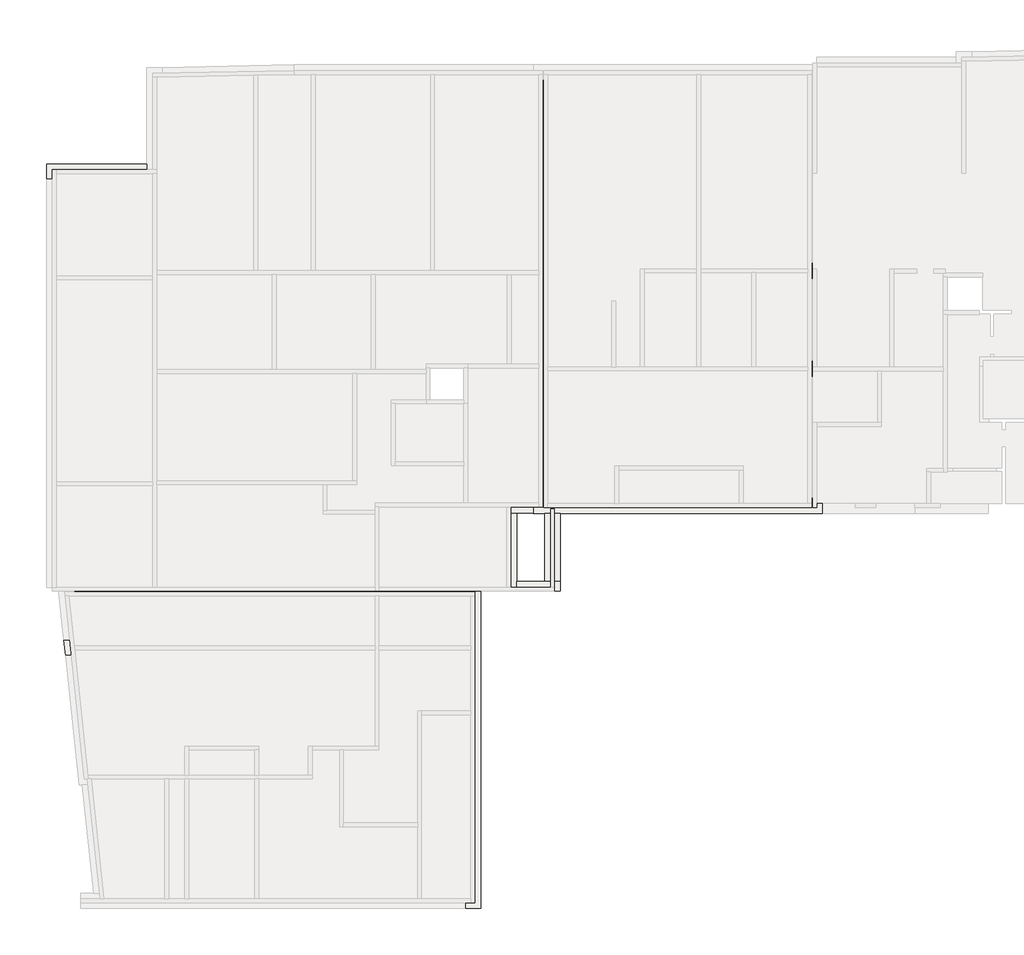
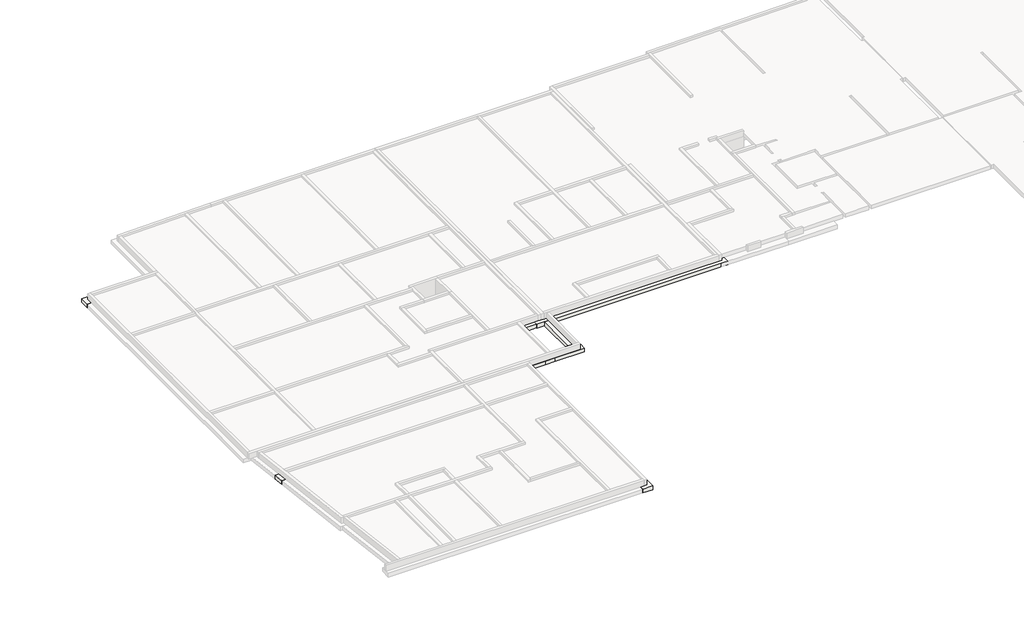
# One storey, part 4 of 5: 45 footings.
"""IFC4 building model written with IfcOpenShell, lengths in millimetres."""

from ifc_helpers import new_model, si_unit, frame, origin, place, context, project, spatial, polyline, outline, extrude, faceted_brep, element, save

model = new_model("IFC4")

# Units and contexts
model_context = context("Model", 3, world=origin())
ifc_project = project(units=[si_unit("LENGTHUNIT", "METRE", prefix="MILLI")], contexts=[model_context])

# Site, building, storey
site = spatial("IfcSite", under=ifc_project)
building = spatial("IfcBuilding", under=site)
storey = spatial("IfcBuildingStorey", under=building, Name="Base Mur soubassement", Elevation=-480.0)

# Footings
placement = place(None, origin())
element("IfcFooting", 1, ObjectType="Soubassement 30 cm/30 cm x 30 cm", at=placement, inside=storey, context=model_context, shape_type="Brep", body=[
    faceted_brep([(31528.7587922, 36682.4079561, -480.0), (31528.7587922, 27172.4500352, -480.0), (31528.7587922, 26372.4500352, -480.0), (31528.7587922, 22073.8066571, -480.0), (32328.7587922, 22073.8066571, -480.0), (32328.7587922, 26372.4500352, -480.0), (32328.7587922, 27172.4500352, -480.0), (32328.7587922, 36682.4079561, -480.0), (32328.7587922, 36682.4079561, -780.0), (32328.7587922, 22073.8066571, -780.0), (32328.7587922, 26372.4500352, -780.0), (32328.7587922, 27172.4500352, -780.0), (31528.7587922, 36682.4079561, -780.0), (31528.7587922, 22073.8066571, -780.0), (31528.7587922, 26372.4500352, -780.0), (31528.7587922, 27172.4500352, -780.0)], [[[0, 1, 2, 3, 4, 5, 6, 7]], [[8, 7, 6, 5, 4, 9, 10, 11]], [[12, 8, 11, 10, 9, 13, 14, 15]], [[0, 12, 15, 14, 13, 3, 2, 1]], [[0, 7, 8, 12]], [[4, 3, 13, 9]]]),
])
element("IfcFooting", 2, ObjectType="Soubassement 30 cm/30 cm x 30 cm", at=placement, inside=storey, context=model_context, shape_type="Brep", body=[
    faceted_brep([(24379.3002373, 27172.4500352, -480.0), (24379.3002373, 27172.4500352, -780.0), (24379.3002373, 26372.4500352, -780.0), (24379.3002373, 26372.4500352, -480.0), (27126.9896309, 26372.4500352, -480.0), (27926.9896309, 26372.4500352, -480.0), (28598.3646686, 26372.4500352, -480.0), (29398.3646686, 26372.4500352, -480.0), (31528.7587922, 26372.4500352, -480.0), (31528.7587922, 27172.4500352, -480.0), (31528.7587922, 27172.4500352, -780.0), (31528.7587922, 26372.4500352, -780.0), (29398.3646686, 26372.4500352, -780.0), (28598.3646686, 26372.4500352, -780.0), (27926.9896309, 26372.4500352, -780.0), (27126.9896309, 26372.4500352, -780.0)], [[[0, 1, 2, 3]], [[0, 3, 4, 5, 6, 7, 8, 9]], [[1, 0, 9, 10]], [[2, 1, 10, 11, 12, 13, 14, 15]], [[3, 2, 15, 14, 13, 12, 11, 8, 7, 6, 5, 4]], [[9, 8, 11, 10]]]),
    faceted_brep([(38358.398272, 26372.4500352, -480.0), (38358.398272, 27157.8817009, -480.0), (38358.398272, 27172.4500352, -480.0), (37308.398272, 27172.4500352, -480.0), (32328.7587922, 27172.4500352, -480.0), (32328.7587922, 26372.4500352, -480.0), (34393.5365752, 26372.4500352, -480.0), (35193.5365752, 26372.4500352, -480.0), (37308.398272, 26372.4500352, -480.0), (38166.5033212, 26372.4500352, -480.0), (38358.398272, 27172.4500352, -780.0), (37308.398272, 27172.4500352, -780.0), (32328.7587922, 27172.4500352, -780.0), (38358.398272, 27157.8817009, -780.0), (38358.398272, 26372.4500352, -780.0), (38166.5033212, 26372.4500352, -780.0), (37308.398272, 26372.4500352, -780.0), (35193.5365752, 26372.4500352, -780.0), (34393.5365752, 26372.4500352, -780.0), (32328.7587922, 26372.4500352, -780.0)], [[[0, 1, 2, 3, 4, 5, 6, 7, 8, 9]], [[2, 10, 11, 12, 4, 3]], [[10, 13, 14, 15, 16, 17, 18, 19, 12, 11]], [[14, 0, 9, 8, 7, 6, 5, 19, 18, 17, 16, 15]], [[5, 4, 12, 19]], [[2, 1, 0, 14, 13, 10]]]),
])
element("IfcFooting", 3, ObjectType="Soubassement 30 cm/30 cm x 30 cm", at=placement, inside=storey, context=model_context, shape_type="Brep", body=[
    faceted_brep([(38358.398272, 22073.8066571, -480.0), (37308.398272, 22073.8066571, -480.0), (35193.5365752, 22073.8066571, -480.0), (34393.5365752, 22073.8066571, -480.0), (32328.7587922, 22073.8066571, -480.0), (31528.7587922, 22073.8066571, -480.0), (29398.3646686, 22073.8066571, -480.0), (28598.3646686, 22073.8066571, -480.0), (27926.9896309, 22073.8066571, -480.0), (27126.9896309, 22073.8066571, -480.0), (24379.3002373, 22073.8066571, -480.0), (23619.3814813, 22073.8066571, -480.0), (23329.3002373, 22073.8066571, -480.0), (23329.3002373, 21416.9971343, -480.0), (23329.3002373, 21273.8066571, -480.0), (24379.3002373, 21273.8066571, -480.0), (37308.398272, 21273.8066571, -480.0), (37868.7313075, 21273.8066571, -480.0), (38358.398272, 21273.8066571, -480.0), (38358.398272, 22072.4500352, -480.0), (38358.398272, 21273.8066571, -780.0), (23329.3002373, 21273.8066571, -780.0), (24379.3002373, 21273.8066571, -780.0), (37308.398272, 21273.8066571, -780.0), (37868.7313075, 21273.8066571, -780.0), (38358.398272, 22073.8066571, -780.0), (38358.398272, 22072.4500352, -780.0), (23329.3002373, 21416.9971343, -780.0), (23329.3002373, 22073.8066571, -780.0), (23619.3814813, 22073.8066571, -780.0), (24379.3002373, 22073.8066571, -780.0), (27126.9896309, 22073.8066571, -780.0), (27926.9896309, 22073.8066571, -780.0), (28598.3646686, 22073.8066571, -780.0), (29398.3646686, 22073.8066571, -780.0), (31528.7587922, 22073.8066571, -780.0), (32328.7587922, 22073.8066571, -780.0), (34393.5365752, 22073.8066571, -780.0), (35193.5365752, 22073.8066571, -780.0), (37308.398272, 22073.8066571, -780.0)], [[[0, 1, 2, 3, 4, 5, 6, 7, 8, 9, 10, 11, 12, 13, 14, 15, 16, 17, 18, 19]], [[20, 18, 17, 16, 15, 14, 21, 22, 23, 24]], [[25, 26, 20, 24, 23, 22, 21, 27, 28, 29, 30, 31, 32, 33, 34, 35, 36, 37, 38, 39]], [[0, 25, 39, 38, 37, 36, 35, 34, 33, 32, 31, 30, 29, 28, 12, 11, 10, 9, 8, 7, 6, 5, 4, 3, 2, 1]], [[0, 19, 18, 20, 26, 25]], [[14, 13, 12, 28, 27, 21]]]),
])
element("IfcFooting", 4, ObjectType="Soubassement 30 cm/30 cm x 30 cm", at=placement, inside=storey, context=model_context, shape_type="Brep", body=[
    faceted_brep([(27266.9796966, 16111.4012934, -480.0), (28066.9796966, 16111.4012934, -480.0), (33752.3966699, 16111.4012934, -480.0), (34552.3966699, 16111.4012934, -480.0), (34552.3966699, 16911.4012934, -480.0), (27266.9796966, 16911.4012934, -480.0), (27266.9796966, 16911.4012934, -780.0), (34552.3966699, 16911.4012934, -780.0), (27266.9796966, 16111.4012934, -780.0), (34552.3966699, 16111.4012934, -780.0), (33752.3966699, 16111.4012934, -780.0), (28066.9796966, 16111.4012934, -780.0)], [[[0, 1, 2, 3, 4, 5]], [[6, 5, 4, 7]], [[8, 6, 7, 9, 10, 11]], [[0, 8, 11, 10, 9, 3, 2, 1]], [[0, 5, 6, 8]], [[4, 3, 9, 7]]]),
])
element("IfcFooting", 5, ObjectType="Soubassement 30 cm/30 cm x 30 cm", at=placement, inside=storey, context=model_context, shape_type="Brep", body=[
    faceted_brep([(23329.3002373, 14164.3593187, -480.0), (23935.2475272, 14164.3593187, -480.0), (24735.2475272, 14164.3593187, -480.0), (37848.6597873, 14164.3593187, -480.0), (38358.398272, 14164.3593187, -480.0), (38358.398272, 14962.6998135, -480.0), (38358.398272, 14964.3593187, -480.0), (37308.398272, 14964.3593187, -480.0), (34552.3966699, 14964.3593187, -480.0), (33752.3966699, 14964.3593187, -480.0), (28066.9796966, 14964.3593187, -480.0), (27266.9796966, 14964.3593187, -480.0), (24379.3002373, 14964.3593187, -480.0), (23619.3814813, 14964.3593187, -480.0), (23329.3002373, 14964.3593187, -480.0), (23329.3002373, 14187.8380735, -480.0), (23329.3002373, 14964.3593187, -780.0), (38358.398272, 14964.3593187, -780.0), (37308.398272, 14964.3593187, -780.0), (34552.3966699, 14964.3593187, -780.0), (33752.3966699, 14964.3593187, -780.0), (28066.9796966, 14964.3593187, -780.0), (27266.9796966, 14964.3593187, -780.0), (24379.3002373, 14964.3593187, -780.0), (23619.3814813, 14964.3593187, -780.0), (23329.3002373, 14164.3593187, -780.0), (23329.3002373, 14187.8380735, -780.0), (38358.398272, 14962.6998135, -780.0), (38358.398272, 14164.3593187, -780.0), (37848.6597873, 14164.3593187, -780.0), (24735.2475272, 14164.3593187, -780.0), (23935.2475272, 14164.3593187, -780.0)], [[[0, 1, 2, 3, 4, 5, 6, 7, 8, 9, 10, 11, 12, 13, 14, 15]], [[16, 14, 13, 12, 11, 10, 9, 8, 7, 6, 17, 18, 19, 20, 21, 22, 23, 24]], [[25, 26, 16, 24, 23, 22, 21, 20, 19, 18, 17, 27, 28, 29, 30, 31]], [[0, 25, 31, 30, 29, 28, 4, 3, 2, 1]], [[0, 15, 14, 16, 26, 25]], [[6, 5, 4, 28, 27, 17]]]),
])
element("IfcFooting", 6, ObjectType="Soubassement 30 cm/30 cm x 30 cm", at=placement, inside=storey, context=model_context, shape_type="Brep", body=[
    faceted_brep([(23619.3814813, 14987.8380735, -780.0), (23619.3814813, 14987.8380735, -480.0), (23619.3814813, 14964.3593187, -480.0), (23619.3814813, 14964.3593187, -780.0), (23329.3002373, 14987.8380735, -480.0), (20229.9333488, 14987.8380735, -480.0), (19429.9333488, 14987.8380735, -480.0), (14809.3203129, 14987.8380735, -480.0), (14809.3203129, 14617.7151114, -480.0), (14809.3203129, 14187.8380735, -480.0), (15609.3203129, 14187.8380735, -480.0), (21668.3655313, 14187.8380735, -480.0), (22468.3655313, 14187.8380735, -480.0), (23329.3002373, 14187.8380735, -480.0), (23329.3002373, 14964.3593187, -480.0), (14809.3203129, 14187.8380735, -780.0), (15609.3203129, 14187.8380735, -780.0), (21668.3655313, 14187.8380735, -780.0), (22468.3655313, 14187.8380735, -780.0), (23329.3002373, 14187.8380735, -780.0), (14809.3203129, 14987.8380735, -780.0), (19429.9333488, 14987.8380735, -780.0), (20229.9333488, 14987.8380735, -780.0), (23329.3002373, 14987.8380735, -780.0), (23329.3002373, 14964.3593187, -780.0), (14809.3203129, 14617.7151114, -780.0)], [[[0, 1, 2, 3]], [[1, 4, 5, 6, 7, 8, 9, 10, 11, 12, 13, 14, 2]], [[9, 15, 16, 17, 18, 19, 13, 12, 11, 10]], [[20, 21, 22, 23, 0, 3, 24, 19, 18, 17, 16, 15, 25]], [[1, 0, 23, 22, 21, 20, 7, 6, 5, 4]], [[9, 8, 7, 20, 25, 15]], [[14, 24, 3, 2]], [[24, 14, 13, 19]]]),
])
element("IfcFooting", 7, ObjectType="Soubassement 30 cm/30 cm x 30 cm", at=placement, inside=storey, context=model_context, shape_type="Brep", body=[
    faceted_brep([(21668.3655313, 10115.4117008, -480.0), (22468.3655313, 10115.4117008, -480.0), (22468.3655313, 10615.4117008, -480.0), (22468.3655313, 14187.8380735, -480.0), (21668.3655313, 14187.8380735, -480.0), (21668.3655313, 10615.4117008, -480.0), (22468.3655313, 10115.4117008, -780.0), (22468.3655313, 10615.4117008, -780.0), (22468.3655313, 14187.8380735, -780.0), (21668.3655313, 10115.4117008, -780.0), (21668.3655313, 10615.4117008, -780.0), (21668.3655313, 14187.8380735, -780.0)], [[[0, 1, 2, 3, 4, 5]], [[1, 6, 7, 8, 3, 2]], [[6, 9, 10, 11, 8, 7]], [[9, 0, 5, 4, 11, 10]], [[4, 3, 8, 11]], [[1, 0, 9, 6]]]),
])
element("IfcFooting", 8, ObjectType="Soubassement 30 cm/30 cm x 30 cm", at=placement, inside=storey, context=model_context, shape_type="SweptSolid", body=[
    extrude(outline(polyline([(27266.9796966, 16111.4012934), (28066.9796966, 16111.4012934), (28066.9796966, 14964.3593187), (27266.9796966, 14964.3593187), (27266.9796966, 16111.4012934)])), frame((0.0, 0.0, -780.0), z_axis=(0.0, 0.0, 1.0), x_axis=(1.0, 0.0, 0.0)), (0.0, 0.0, 1.0), 300.0),
])
element("IfcFooting", 9, ObjectType="Soubassement 30 cm/30 cm x 30 cm", at=placement, inside=storey, context=model_context, shape_type="SweptSolid", body=[
    extrude(outline(polyline([(33752.3966699, 16111.4012934), (34552.3966699, 16111.4012934), (34552.3966699, 14964.3593187), (33752.3966699, 14964.3593187), (33752.3966699, 16111.4012934)])), frame((0.0, 0.0, -780.0), z_axis=(0.0, 0.0, 1.0), x_axis=(1.0, 0.0, 0.0)), (0.0, 0.0, 1.0), 300.0),
])
element("IfcFooting", 10, ObjectType="Soubassement 30 cm/30 cm x 30 cm", at=placement, inside=storey, context=model_context, shape_type="SweptSolid", body=[
    extrude(outline(polyline([(27126.9896309, 26372.4500352), (27926.9896309, 26372.4500352), (27926.9896309, 22073.8066571), (27126.9896309, 22073.8066571), (27126.9896309, 26372.4500352)])), frame((0.0, 0.0, -780.0), z_axis=(0.0, 0.0, 1.0), x_axis=(1.0, 0.0, 0.0)), (0.0, 0.0, 1.0), 300.0),
])
element("IfcFooting", 11, ObjectType="Soubassement 30 cm/30 cm x 30 cm", at=placement, inside=storey, context=model_context, shape_type="SweptSolid", body=[
    extrude(outline(polyline([(29398.3646686, 22073.8066571), (28598.3646686, 22073.8066571), (28598.3646686, 26372.4500352), (29398.3646686, 26372.4500352), (29398.3646686, 22073.8066571)])), frame((0.0, 0.0, -780.0), z_axis=(0.0, 0.0, 1.0), x_axis=(1.0, 0.0, 0.0)), (0.0, 0.0, 1.0), 300.0),
])
element("IfcFooting", 12, ObjectType="Soubassement 30 cm/30 cm x 30 cm", at=placement, inside=storey, context=model_context, shape_type="Brep", body=[
    faceted_brep([(14464.9548931, 15349.6332906, -480.0), (14464.9548931, 21125.9455164, -480.0), (13664.9548931, 21125.9455164, -480.0), (13664.9548931, 16149.6332906, -480.0), (13664.9548931, 15349.6332906, -480.0), (13664.9548931, 15349.6332906, -780.0), (13664.9548931, 21125.9455164, -780.0), (13664.9548931, 16149.6332906, -780.0), (14464.9548931, 15349.6332906, -780.0), (14464.9548931, 21125.9455164, -780.0)], [[[0, 1, 2, 3, 4]], [[5, 4, 3, 2, 6, 7]], [[8, 5, 7, 6, 9]], [[0, 8, 9, 1]], [[2, 1, 9, 6]], [[0, 4, 5, 8]]]),
])
element("IfcFooting", 13, ObjectType="Soubassement 30 cm/30 cm x 30 cm", at=placement, inside=storey, context=model_context, shape_type="Brep", body=[
    faceted_brep([(17765.1211572, 21925.9455164, -480.0), (17765.1211572, 21125.9455164, -480.0), (17765.1211572, 21125.9455164, -780.0), (17765.1211572, 21925.9455164, -780.0), (3256.9078335, 21125.9455164, -480.0), (4056.9078335, 21125.9455164, -480.0), (13664.9548931, 21125.9455164, -480.0), (14464.9548931, 21125.9455164, -480.0), (15413.9907355, 21925.9455164, -480.0), (14613.9907355, 21925.9455164, -480.0), (10278.0983694, 21925.9455164, -480.0), (9478.0983694, 21925.9455164, -480.0), (4056.9078335, 21925.9455164, -480.0), (3256.9078335, 21925.9455164, -480.0), (3256.9078335, 21925.9455164, -780.0), (15413.9907355, 21925.9455164, -780.0), (14613.9907355, 21925.9455164, -780.0), (10278.0983694, 21925.9455164, -780.0), (9478.0983694, 21925.9455164, -780.0), (4056.9078335, 21925.9455164, -780.0), (3256.9078335, 21125.9455164, -780.0), (14464.9548931, 21125.9455164, -780.0), (13664.9548931, 21125.9455164, -780.0), (4056.9078335, 21125.9455164, -780.0)], [[[0, 1, 2, 3]], [[4, 5, 6, 7, 1, 0, 8, 9, 10, 11, 12, 13]], [[14, 13, 12, 11, 10, 9, 8, 0, 3, 15, 16, 17, 18, 19]], [[20, 14, 19, 18, 17, 16, 15, 3, 2, 21, 22, 23]], [[4, 20, 23, 22, 21, 2, 1, 7, 6, 5]], [[4, 13, 14, 20]]]),
])
element("IfcFooting", 14, ObjectType="Soubassement 30 cm/30 cm x 30 cm", at=placement, inside=storey, context=model_context, shape_type="Brep", body=[
    faceted_brep([(23619.3814813, 22216.9971343, -780.0), (23619.3814813, 22216.9971343, -480.0), (23619.3814813, 22073.8066571, -480.0), (23619.3814813, 22073.8066571, -780.0), (19929.9333488, 21416.9971343, -780.0), (19929.9333488, 21416.9971343, -480.0), (19929.9333488, 22216.9971343, -480.0), (19929.9333488, 22216.9971343, -780.0), (23329.3002373, 22216.9971343, -480.0), (22495.0786989, 22216.9971343, -480.0), (21695.0786989, 22216.9971343, -480.0), (23329.3002373, 21416.9971343, -480.0), (23329.3002373, 22073.8066571, -480.0), (23329.3002373, 21416.9971343, -780.0), (21695.0786989, 22216.9971343, -780.0), (22495.0786989, 22216.9971343, -780.0), (23329.3002373, 22216.9971343, -780.0), (23329.3002373, 22073.8066571, -780.0)], [[[0, 1, 2, 3]], [[4, 5, 6, 7]], [[1, 8, 9, 10, 6, 5, 11, 12, 2]], [[5, 4, 13, 11]], [[4, 7, 14, 15, 16, 0, 3, 17, 13]], [[1, 0, 16, 15, 14, 7, 6, 10, 9, 8]], [[12, 17, 3, 2]], [[17, 12, 11, 13]]]),
])
element("IfcFooting", 15, ObjectType="Soubassement 30 cm/30 cm x 30 cm", at=placement, inside=storey, context=model_context, shape_type="Brep", body=[
    faceted_brep([(21695.0786989, 27087.8872551, -480.0), (21695.0786989, 26287.8872551, -480.0), (21695.0786989, 22216.9971343, -480.0), (22495.0786989, 22216.9971343, -480.0), (22495.0786989, 26287.8872551, -480.0), (22495.0786989, 27087.8872551, -480.0), (22495.0786989, 27087.8872551, -780.0), (22495.0786989, 22216.9971343, -780.0), (22495.0786989, 26287.8872551, -780.0), (21695.0786989, 27087.8872551, -780.0), (21695.0786989, 22216.9971343, -780.0), (21695.0786989, 26287.8872551, -780.0)], [[[0, 1, 2, 3, 4, 5]], [[6, 5, 4, 3, 7, 8]], [[9, 6, 8, 7, 10, 11]], [[0, 9, 11, 10, 2, 1]], [[3, 2, 10, 7]], [[0, 5, 6, 9]]]),
])
element("IfcFooting", 16, ObjectType="Soubassement 30 cm/30 cm x 30 cm", at=placement, inside=storey, context=model_context, shape_type="Brep", body=[
    faceted_brep([(23619.3814813, 26287.8872551, -480.0), (23619.3814813, 26287.8872551, -780.0), (23619.3814813, 27087.8872551, -780.0), (23619.3814813, 27087.8872551, -480.0), (23329.3002373, 27087.8872551, -480.0), (22495.0786989, 27087.8872551, -480.0), (22495.0786989, 26287.8872551, -480.0), (23329.3002373, 26287.8872551, -480.0), (22495.0786989, 26287.8872551, -780.0), (23329.3002373, 26287.8872551, -780.0), (22495.0786989, 27087.8872551, -780.0), (23329.3002373, 27087.8872551, -780.0)], [[[0, 1, 2, 3]], [[0, 3, 4, 5, 6, 7]], [[1, 0, 7, 6, 8, 9]], [[2, 1, 9, 8, 10, 11]], [[3, 2, 11, 10, 5, 4]], [[6, 5, 10, 8]]]),
    faceted_brep([(3256.9078335, 27087.8872551, -480.0), (3256.9078335, 26808.0923089, -480.0), (3256.9078335, 26287.8872551, -480.0), (4056.9078335, 26287.8872551, -480.0), (9478.0983694, 26287.8872551, -480.0), (10278.0983694, 26287.8872551, -480.0), (14613.9907355, 26287.8872551, -480.0), (15413.9907355, 26287.8872551, -480.0), (21695.0786989, 26287.8872551, -480.0), (21695.0786989, 27087.8872551, -480.0), (18499.2548774, 27087.8872551, -480.0), (17699.2548774, 27087.8872551, -480.0), (12303.2656575, 27087.8872551, -480.0), (11503.2656575, 27087.8872551, -480.0), (9317.5794193, 27087.8872551, -480.0), (8517.5794193, 27087.8872551, -480.0), (4056.9078335, 27087.8872551, -480.0), (3256.9078335, 26287.8872551, -780.0), (4056.9078335, 26287.8872551, -780.0), (9478.0983694, 26287.8872551, -780.0), (10278.0983694, 26287.8872551, -780.0), (14613.9907355, 26287.8872551, -780.0), (15413.9907355, 26287.8872551, -780.0), (21695.0786989, 26287.8872551, -780.0), (3256.9078335, 26808.0923089, -780.0), (3256.9078335, 27087.8872551, -780.0), (4056.9078335, 27087.8872551, -780.0), (8517.5794193, 27087.8872551, -780.0), (9317.5794193, 27087.8872551, -780.0), (11503.2656575, 27087.8872551, -780.0), (12303.2656575, 27087.8872551, -780.0), (17699.2548774, 27087.8872551, -780.0), (18499.2548774, 27087.8872551, -780.0), (21695.0786989, 27087.8872551, -780.0)], [[[0, 1, 2, 3, 4, 5, 6, 7, 8, 9, 10, 11, 12, 13, 14, 15, 16]], [[2, 17, 18, 19, 20, 21, 22, 23, 8, 7, 6, 5, 4, 3]], [[17, 24, 25, 26, 27, 28, 29, 30, 31, 32, 33, 23, 22, 21, 20, 19, 18]], [[25, 0, 16, 15, 14, 13, 12, 11, 10, 9, 33, 32, 31, 30, 29, 28, 27, 26]], [[9, 8, 23, 33]], [[2, 1, 0, 25, 24, 17]]]),
])
element("IfcFooting", 17, ObjectType="Soubassement 30 cm/30 cm x 30 cm", at=placement, inside=storey, context=model_context, shape_type="SweptSolid", body=[
    extrude(outline(polyline([(15413.9907355, 21925.9455164), (14613.9907355, 21925.9455164), (14613.9907355, 26287.8872551), (15413.9907355, 26287.8872551), (15413.9907355, 21925.9455164)])), frame((0.0, 0.0, -780.0), z_axis=(0.0, 0.0, 1.0), x_axis=(1.0, 0.0, 0.0)), (0.0, 0.0, 1.0), 300.0),
])
element("IfcFooting", 18, ObjectType="Soubassement 30 cm/30 cm x 30 cm", at=placement, inside=storey, context=model_context, shape_type="SweptSolid", body=[
    extrude(outline(polyline([(10278.0983694, 21925.9455164), (9478.0983694, 21925.9455164), (9478.0983694, 26287.8872551), (10278.0983694, 26287.8872551), (10278.0983694, 21925.9455164)])), frame((0.0, 0.0, -780.0), z_axis=(0.0, 0.0, 1.0), x_axis=(1.0, 0.0, 0.0)), (0.0, 0.0, 1.0), 300.0),
])
element("IfcFooting", 19, ObjectType="Soubassement 30 cm/30 cm x 30 cm", at=placement, inside=storey, context=model_context, shape_type="SweptSolid", body=[
    extrude(outline(polyline([(11503.2656575, 36682.4079561), (12303.2656575, 36682.4079561), (12303.2656575, 27087.8872551), (11503.2656575, 27087.8872551), (11503.2656575, 36682.4079561)])), frame((0.0, 0.0, -780.0), z_axis=(0.0, 0.0, 1.0), x_axis=(1.0, 0.0, 0.0)), (0.0, 0.0, 1.0), 300.0),
])
element("IfcFooting", 20, ObjectType="Soubassement 30 cm/30 cm x 30 cm", at=placement, inside=storey, context=model_context, shape_type="SweptSolid", body=[
    extrude(outline(polyline([(17699.2548774, 36682.4079561), (18499.2548774, 36682.4079561), (18499.2548774, 27087.8872551), (17699.2548774, 27087.8872551), (17699.2548774, 36682.4079561)])), frame((0.0, 0.0, -780.0), z_axis=(0.0, 0.0, 1.0), x_axis=(1.0, 0.0, 0.0)), (0.0, 0.0, 1.0), 300.0),
])
element("IfcFooting", 21, ObjectType="Soubassement 30 cm/30 cm x 30 cm", at=placement, inside=storey, context=model_context, shape_type="SweptSolid", body=[
    extrude(outline(polyline([(8517.5794193, 36634.8999283), (9317.5794193, 36650.8279104), (9317.5794193, 27087.8872551), (8517.5794193, 27087.8872551), (8517.5794193, 36634.8999283)])), frame((0.0, 0.0, -780.0), z_axis=(0.0, 0.0, 1.0), x_axis=(1.0, 0.0, 0.0)), (0.0, 0.0, 1.0), 300.0),
])
element("IfcFooting", 22, ObjectType="Soubassement 30 cm/30 cm x 30 cm", at=placement, inside=storey, context=model_context, shape_type="Brep", body=[
    faceted_brep([(4056.9078335, 31828.092309, -480.0), (4056.9078335, 31828.092309, -780.0), (3256.9078335, 31828.092309, -780.0), (3256.9078335, 31828.092309, -480.0), (3256.9078335, 31528.092309, -480.0), (3256.9078335, 27087.8872551, -480.0), (4056.9078335, 27087.8872551, -480.0), (4056.9078335, 27087.8872551, -780.0), (3256.9078335, 27087.8872551, -780.0), (3256.9078335, 31528.092309, -780.0)], [[[0, 1, 2, 3]], [[0, 3, 4, 5, 6]], [[1, 0, 6, 7]], [[2, 1, 7, 8, 9]], [[3, 2, 9, 8, 5, 4]], [[6, 5, 8, 7]]]),
    faceted_brep([(4056.9078335, 10315.4117008, -780.0), (4056.9078335, 10315.4117008, -480.0), (3256.9078335, 10315.4117008, -480.0), (3256.9078335, 10315.4117008, -780.0), (4056.9078335, 10615.4625547, -480.0), (4056.9078335, 15349.6332906, -480.0), (4056.9078335, 16149.6332906, -480.0), (4056.9078335, 21125.9455164, -480.0), (3256.9078335, 21125.9455164, -480.0), (3256.9078335, 16100.3661348, -480.0), (3256.9078335, 15300.3661348, -480.0), (3256.9078335, 10615.4625547, -480.0), (4056.9078335, 10615.4625547, -780.0), (4056.9078335, 15349.6332906, -780.0), (4056.9078335, 16149.6332906, -780.0), (4056.9078335, 21125.9455164, -780.0), (3256.9078335, 10615.4625547, -780.0), (3256.9078335, 15300.3661348, -780.0), (3256.9078335, 16100.3661348, -780.0), (3256.9078335, 21125.9455164, -780.0)], [[[0, 1, 2, 3]], [[2, 1, 4, 5, 6, 7, 8, 9, 10, 11]], [[1, 0, 12, 13, 14, 15, 7, 6, 5, 4]], [[0, 3, 16, 17, 18, 19, 15, 14, 13, 12]], [[3, 2, 11, 10, 9, 8, 19, 18, 17, 16]], [[8, 7, 15, 19]]]),
    faceted_brep([(3256.9078335, 21925.9455164, -480.0), (4056.9078335, 21925.9455164, -480.0), (4056.9078335, 26287.8872551, -480.0), (3256.9078335, 26287.8872551, -480.0), (3256.9078335, 26008.0923089, -480.0), (4056.9078335, 21925.9455164, -780.0), (4056.9078335, 26287.8872551, -780.0), (3256.9078335, 21925.9455164, -780.0), (3256.9078335, 26008.0923089, -780.0), (3256.9078335, 26287.8872551, -780.0)], [[[0, 1, 2, 3, 4]], [[1, 5, 6, 2]], [[5, 7, 8, 9, 6]], [[7, 0, 4, 3, 9, 8]], [[1, 0, 7, 5]], [[3, 2, 6, 9]]]),
])
element("IfcFooting", 23, ObjectType="Soubassement 30 cm/30 cm x 30 cm", at=placement, inside=storey, context=model_context, shape_type="Brep", body=[
    faceted_brep([(4056.9078335, 31828.092309, -480.0), (4056.9078335, 31828.092309, -780.0), (4056.9078335, 32028.092309, -780.0), (4056.9078335, 32028.092309, -480.0), (-1963.0020232, 31528.092309, -480.0), (-1163.0020232, 31528.092309, -480.0), (3256.9078335, 31528.092309, -480.0), (3256.9078335, 31828.092309, -480.0), (3256.9078335, 32028.092309, -480.0), (3256.9078335, 32328.092309, -480.0), (-1963.0020232, 32328.092309, -480.0), (-1963.0020232, 32328.092309, -780.0), (3256.9078335, 32328.092309, -780.0), (3256.9078335, 31528.092309, -780.0), (-1163.0020232, 31528.092309, -780.0), (-1963.0020232, 31528.092309, -780.0), (3256.9078335, 32028.092309, -780.0), (3256.9078335, 31828.092309, -780.0)], [[[0, 1, 2, 3]], [[4, 5, 6, 7, 0, 3, 8, 9, 10]], [[11, 10, 9, 12]], [[13, 14, 15, 11, 12, 16, 2, 1, 17]], [[6, 5, 4, 15, 14, 13]], [[7, 17, 1, 0]], [[17, 7, 6, 13]], [[16, 8, 3, 2]], [[8, 16, 12, 9]], [[4, 10, 11, 15]]]),
])
element("IfcFooting", 24, ObjectType="Soubassement 30 cm/30 cm x 30 cm", at=placement, inside=storey, context=model_context, shape_type="Brep", body=[
    faceted_brep([(3256.9078335, 26808.0923089, -480.0), (-1163.0020232, 26808.0923089, -480.0), (-1163.0020232, 26008.0923089, -480.0), (3256.9078335, 26008.0923089, -480.0), (3256.9078335, 26287.8872551, -480.0), (3256.9078335, 26008.0923089, -780.0), (-1163.0020232, 26008.0923089, -780.0), (3256.9078335, 26808.0923089, -780.0), (3256.9078335, 26287.8872551, -780.0), (-1163.0020232, 26808.0923089, -780.0)], [[[0, 1, 2, 3, 4]], [[5, 3, 2, 6]], [[7, 8, 5, 6, 9]], [[0, 7, 9, 1]], [[0, 4, 3, 5, 8, 7]], [[2, 1, 9, 6]]]),
])
element("IfcFooting", 25, ObjectType="Soubassement 30 cm/30 cm x 30 cm", at=placement, inside=storey, context=model_context, shape_type="SweptSolid", body=[
    extrude(outline(polyline([(3256.9078335, 16100.3661348), (3256.9078335, 15300.3661348), (-1163.0020232, 15300.3661348), (-1163.0020232, 16100.3661348), (3256.9078335, 16100.3661348)])), frame((0.0, 0.0, -780.0), z_axis=(0.0, 0.0, 1.0), x_axis=(1.0, 0.0, 0.0)), (0.0, 0.0, 1.0), 300.0),
])
element("IfcFooting", 26, ObjectType="Soubassement 30 cm/30 cm x 30 cm", at=placement, inside=storey, context=model_context, shape_type="Brep", body=[
    faceted_brep([(13664.9548931, 15349.6332906, -480.0), (13664.9548931, 16149.6332906, -480.0), (4056.9078335, 16149.6332906, -480.0), (4056.9078335, 15349.6332906, -480.0), (12109.3203129, 15349.6332906, -480.0), (12909.3203129, 15349.6332906, -480.0), (13664.9548931, 16149.6332906, -780.0), (4056.9078335, 16149.6332906, -780.0), (13664.9548931, 15349.6332906, -780.0), (12909.3203129, 15349.6332906, -780.0), (12109.3203129, 15349.6332906, -780.0), (4056.9078335, 15349.6332906, -780.0)], [[[0, 1, 2, 3, 4, 5]], [[1, 6, 7, 2]], [[6, 8, 9, 10, 11, 7]], [[8, 0, 5, 4, 3, 11, 10, 9]], [[1, 0, 8, 6]], [[3, 2, 7, 11]]]),
])
element("IfcFooting", 27, ObjectType="Soubassement 30 cm/30 cm x 30 cm", at=placement, inside=storey, context=model_context, shape_type="Brep", body=[
    faceted_brep([(12909.3203129, 13817.7151114, -480.0), (12909.3203129, 14617.7151114, -480.0), (12909.3203129, 15349.6332906, -480.0), (12109.3203129, 15349.6332906, -480.0), (12109.3203129, 13817.7151114, -480.0), (12109.3203129, 13817.7151114, -780.0), (12109.3203129, 15349.6332906, -780.0), (12909.3203129, 13817.7151114, -780.0), (12909.3203129, 15349.6332906, -780.0), (12909.3203129, 14617.7151114, -780.0)], [[[0, 1, 2, 3, 4]], [[5, 4, 3, 6]], [[7, 5, 6, 8, 9]], [[0, 7, 9, 8, 2, 1]], [[3, 2, 8, 6]], [[0, 4, 5, 7]]]),
])
element("IfcFooting", 28, ObjectType="Soubassement 30 cm/30 cm x 30 cm", at=placement, inside=storey, context=model_context, shape_type="Brep", body=[
    faceted_brep([(15609.3203129, 13817.7151114, -480.0), (15609.3203129, 14187.8380735, -480.0), (14809.3203129, 14187.8380735, -480.0), (14809.3203129, 14617.7151114, -480.0), (12909.3203129, 14617.7151114, -480.0), (12909.3203129, 13817.7151114, -480.0), (14809.3203129, 13817.7151114, -480.0), (15609.3203129, 13817.7151114, -780.0), (12909.3203129, 13817.7151114, -780.0), (14809.3203129, 13817.7151114, -780.0), (15609.3203129, 14187.8380735, -780.0), (12909.3203129, 14617.7151114, -780.0), (14809.3203129, 14617.7151114, -780.0), (14809.3203129, 14187.8380735, -780.0)], [[[0, 1, 2, 3, 4, 5, 6]], [[7, 0, 6, 5, 8, 9]], [[10, 7, 9, 8, 11, 12, 13]], [[3, 12, 11, 4]], [[13, 2, 1, 10]], [[5, 4, 11, 8]], [[0, 7, 10, 1]], [[2, 13, 12, 3]]]),
])
element("IfcFooting", 29, ObjectType="Soubassement 30 cm/30 cm x 30 cm", at=placement, inside=storey, context=model_context, shape_type="Brep", body=[
    faceted_brep([(14809.3203129, 10115.4117008, -480.0), (15609.3203129, 10115.4117008, -480.0), (15609.3203129, 10615.4625547, -480.0), (15609.3203129, 13817.7151114, -480.0), (14809.3203129, 13817.7151114, -480.0), (14809.3203129, 10615.4625547, -480.0), (15609.3203129, 10115.4117008, -780.0), (15609.3203129, 10615.4625547, -780.0), (15609.3203129, 13817.7151114, -780.0), (14809.3203129, 10115.4117008, -780.0), (14809.3203129, 10615.4625547, -780.0), (14809.3203129, 13817.7151114, -780.0)], [[[0, 1, 2, 3, 4, 5]], [[1, 6, 7, 8, 3, 2]], [[6, 9, 10, 11, 8, 7]], [[9, 0, 5, 4, 11, 10]], [[4, 3, 8, 11]], [[1, 0, 9, 6]]]),
])
element("IfcFooting", 30, ObjectType="Soubassement 30 cm/30 cm x 30 cm", at=placement, inside=storey, context=model_context, shape_type="Brep", body=[
    faceted_brep([(14809.3203129, 1554.5667291, -480.0), (15609.3203129, 1554.5667291, -480.0), (15609.3203129, 6768.5535935, -480.0), (15609.3203129, 7568.5535935, -480.0), (15609.3203129, 9565.4625547, -480.0), (15609.3203129, 10115.4117008, -480.0), (14809.3203129, 10115.4117008, -480.0), (14809.3203129, 9565.4625547, -480.0), (14809.3203129, 7568.5535935, -480.0), (14809.3203129, 6768.5535935, -480.0), (14809.3203129, 2354.5667291, -480.0), (14809.3203129, 1554.5667291, -780.0), (14809.3203129, 10115.4117008, -780.0), (14809.3203129, 9565.4625547, -780.0), (14809.3203129, 7568.5535935, -780.0), (14809.3203129, 6768.5535935, -780.0), (14809.3203129, 2354.5667291, -780.0), (15609.3203129, 1554.5667291, -780.0), (15609.3203129, 10115.4117008, -780.0), (15609.3203129, 9565.4625547, -780.0), (15609.3203129, 7568.5535935, -780.0), (15609.3203129, 6768.5535935, -780.0)], [[[0, 1, 2, 3, 4, 5, 6, 7, 8, 9, 10]], [[11, 0, 10, 9, 8, 7, 6, 12, 13, 14, 15, 16]], [[17, 11, 16, 15, 14, 13, 12, 18, 19, 20, 21]], [[1, 17, 21, 20, 19, 18, 5, 4, 3, 2]], [[1, 0, 11, 17]], [[6, 5, 18, 12]]]),
])
element("IfcFooting", 31, ObjectType="Soubassement 30 cm/30 cm x 30 cm", at=placement, inside=storey, context=model_context, shape_type="Brep", body=[
    faceted_brep([(19795.920738, 10615.4625547, -480.0), (19795.920738, 9565.4625547, -480.0), (19795.920738, 7568.5535935, -480.0), (19795.920738, 6768.5535935, -480.0), (19795.920738, 4181.8208674, -480.0), (19795.920738, 3381.8208674, -480.0), (19795.920738, -5585.1620119, -480.0), (19795.920738, -6385.1620119, -480.0), (20595.920738, -6385.1620119, -480.0), (20595.920738, 10115.4117008, -480.0), (20595.920738, 10615.4625547, -480.0), (20595.920738, 10615.4625547, -780.0), (20595.920738, -6385.1620119, -780.0), (20595.920738, 10115.4117008, -780.0), (19795.920738, 10615.4625547, -780.0), (19795.920738, -6385.1620119, -780.0), (19795.920738, -5585.1620119, -780.0), (19795.920738, 3381.8208674, -780.0), (19795.920738, 4181.8208674, -780.0), (19795.920738, 6768.5535935, -780.0), (19795.920738, 7568.5535935, -780.0), (19795.920738, 9565.4625547, -780.0)], [[[0, 1, 2, 3, 4, 5, 6, 7, 8, 9, 10]], [[11, 10, 9, 8, 12, 13]], [[14, 11, 13, 12, 15, 16, 17, 18, 19, 20, 21]], [[0, 14, 21, 20, 19, 18, 17, 16, 15, 7, 6, 5, 4, 3, 2, 1]], [[8, 7, 15, 12]], [[0, 10, 11, 14]]]),
])
element("IfcFooting", 32, ObjectType="Soubassement 30 cm/30 cm x 30 cm", at=placement, inside=storey, context=model_context, shape_type="Brep", body=[
    faceted_brep([(19795.920738, 6768.5535935, -480.0), (19795.920738, 7568.5535935, -480.0), (15609.3203129, 7568.5535935, -480.0), (15609.3203129, 6768.5535935, -480.0), (19795.920738, 7568.5535935, -780.0), (15609.3203129, 7568.5535935, -780.0), (19795.920738, 6768.5535935, -780.0), (15609.3203129, 6768.5535935, -780.0)], [[[0, 1, 2, 3]], [[1, 4, 5, 2]], [[4, 6, 7, 5]], [[6, 0, 3, 7]], [[1, 0, 6, 4]], [[3, 2, 5, 7]]]),
    faceted_brep([(-1058.4879722, 7568.5535935, -480.0), (-974.404584, 6768.5535935, -480.0), (-169.9979603, 6768.5535935, -480.0), (14809.3203129, 6768.5535935, -480.0), (14809.3203129, 7568.5535935, -480.0), (-254.0813485, 7568.5535935, -480.0), (-1058.4879722, 7568.5535935, -780.0), (14809.3203129, 7568.5535935, -780.0), (-254.0813485, 7568.5535935, -780.0), (-974.404584, 6768.5535935, -780.0), (14809.3203129, 6768.5535935, -780.0), (-169.9979603, 6768.5535935, -780.0)], [[[0, 1, 2, 3, 4, 5]], [[6, 0, 5, 4, 7, 8]], [[9, 6, 8, 7, 10, 11]], [[1, 9, 11, 10, 3, 2]], [[4, 3, 10, 7]], [[1, 0, 6, 9]]]),
])
element("IfcFooting", 33, ObjectType="Soubassement 30 cm/30 cm x 30 cm", at=placement, inside=storey, context=model_context, shape_type="Brep", body=[
    faceted_brep([(612.2249776, 841.1378118, -480.0), (696.3083658, 41.1378118, -480.0), (3882.6863545, 41.1378118, -480.0), (4682.6863545, 41.1378118, -480.0), (4932.5686745, 41.1378118, -480.0), (4932.5686745, 841.1378118, -480.0), (612.2249776, 841.1378118, -780.0), (4932.5686745, 841.1378118, -780.0), (696.3083658, 41.1378118, -780.0), (4932.5686745, 41.1378118, -780.0), (4682.6863545, 41.1378118, -780.0), (3882.6863545, 41.1378118, -780.0)], [[[0, 1, 2, 3, 4, 5]], [[6, 0, 5, 7]], [[8, 6, 7, 9, 10, 11]], [[1, 8, 11, 10, 9, 4, 3, 2]], [[1, 0, 6, 8]], [[5, 4, 9, 7]]]),
    faceted_brep([(12142.4727838, 41.1378118, -480.0), (12142.4727838, 841.1378118, -480.0), (11342.4727838, 841.1378118, -480.0), (9359.0521384, 841.1378118, -480.0), (8559.0521384, 841.1378118, -480.0), (5732.5686745, 841.1378118, -480.0), (5732.5686745, 41.1378118, -480.0), (8559.0521384, 41.1378118, -480.0), (9359.0521384, 41.1378118, -480.0), (12142.4727838, 841.1378118, -780.0), (11342.4727838, 841.1378118, -780.0), (9359.0521384, 841.1378118, -780.0), (8559.0521384, 841.1378118, -780.0), (5732.5686745, 841.1378118, -780.0), (12142.4727838, 41.1378118, -780.0), (9359.0521384, 41.1378118, -780.0), (8559.0521384, 41.1378118, -780.0), (5732.5686745, 41.1378118, -780.0)], [[[0, 1, 2, 3, 4, 5, 6, 7, 8]], [[1, 9, 10, 11, 12, 13, 5, 4, 3, 2]], [[9, 14, 15, 16, 17, 13, 12, 11, 10]], [[14, 0, 8, 7, 6, 17, 16, 15]], [[6, 5, 13, 17]], [[1, 0, 14, 9]]]),
])
element("IfcFooting", 34, ObjectType="Soubassement 30 cm/30 cm x 30 cm", at=placement, inside=storey, context=model_context, shape_type="SweptSolid", body=[
    extrude(outline(polyline([(5732.5686745, 1554.6479064), (5732.5686745, 2354.6479064), (8559.0521384, 2354.6479064), (8559.0521384, 1554.6479064), (5732.5686745, 1554.6479064)])), frame((0.0, 0.0, -780.0), z_axis=(0.0, 0.0, 1.0), x_axis=(1.0, 0.0, 0.0)), (0.0, 0.0, 1.0), 300.0),
])
element("IfcFooting", 35, ObjectType="Soubassement 30 cm/30 cm x 30 cm", at=placement, inside=storey, context=model_context, shape_type="Brep", body=[
    faceted_brep([(12142.4727838, 2354.5667291, -480.0), (11342.4727838, 2354.5667291, -480.0), (11342.4727838, 841.1378118, -480.0), (12142.4727838, 841.1378118, -480.0), (12142.4727838, 1554.5667291, -480.0), (11342.4727838, 2354.5667291, -780.0), (11342.4727838, 841.1378118, -780.0), (12142.4727838, 2354.5667291, -780.0), (12142.4727838, 1554.5667291, -780.0), (12142.4727838, 841.1378118, -780.0)], [[[0, 1, 2, 3, 4]], [[1, 5, 6, 2]], [[5, 7, 8, 9, 6]], [[7, 0, 4, 3, 9, 8]], [[3, 2, 6, 9]], [[1, 0, 7, 5]]]),
])
element("IfcFooting", 36, ObjectType="Soubassement 30 cm/30 cm x 30 cm", at=placement, inside=storey, context=model_context, shape_type="Brep", body=[
    faceted_brep([(14809.3203129, 1554.5667291, -480.0), (14809.3203129, 2354.5667291, -480.0), (12142.4727838, 2354.5667291, -480.0), (12142.4727838, 1554.5667291, -480.0), (12965.8329945, 1554.5667291, -480.0), (13765.8329945, 1554.5667291, -480.0), (14809.3203129, 2354.5667291, -780.0), (12142.4727838, 2354.5667291, -780.0), (14809.3203129, 1554.5667291, -780.0), (13765.8329945, 1554.5667291, -780.0), (12965.8329945, 1554.5667291, -780.0), (12142.4727838, 1554.5667291, -780.0)], [[[0, 1, 2, 3, 4, 5]], [[1, 6, 7, 2]], [[6, 8, 9, 10, 11, 7]], [[8, 0, 5, 4, 3, 11, 10, 9]], [[1, 0, 8, 6]], [[3, 2, 7, 11]]]),
])
element("IfcFooting", 37, ObjectType="Soubassement 30 cm/30 cm x 30 cm", at=placement, inside=storey, context=model_context, shape_type="SweptSolid", body=[
    extrude(outline(polyline([(19795.920738, 4181.8208674), (19795.920738, 3381.8208674), (17823.8377948, 3381.8208674), (17823.8377948, 4181.8208674), (19795.920738, 4181.8208674)])), frame((0.0, 0.0, -780.0), z_axis=(0.0, 0.0, 1.0), x_axis=(1.0, 0.0, 0.0)), (0.0, 0.0, 1.0), 300.0),
])
element("IfcFooting", 38, ObjectType="Soubassement 55 cm/30 cm x 30 cm pour mur jd", at=placement, inside=storey, context=model_context, shape_type="Brep", body=[
    faceted_brep([(24379.3002373, 36682.4079561, -480.0), (23329.3002373, 36682.4079561, -480.0), (23329.3002373, 27087.8872551, -480.0), (23619.3814813, 27087.8872551, -480.0), (23619.3814813, 26287.8872551, -480.0), (23329.3002373, 26287.8872551, -480.0), (23329.3002373, 22216.9971343, -480.0), (23619.3814813, 22216.9971343, -480.0), (23619.3814813, 22073.8066571, -480.0), (24379.3002373, 22073.8066571, -480.0), (24379.3002373, 26372.4500352, -480.0), (24379.3002373, 27172.4500352, -480.0), (24379.3002373, 36682.4079561, -780.0), (24379.3002373, 22073.8066571, -780.0), (24379.3002373, 26372.4500352, -780.0), (24379.3002373, 27172.4500352, -780.0), (23329.3002373, 36682.4079561, -780.0), (23619.3814813, 22073.8066571, -780.0), (23619.3814813, 22216.9971343, -780.0), (23329.3002373, 22216.9971343, -780.0), (23329.3002373, 26287.8872551, -780.0), (23619.3814813, 26287.8872551, -780.0), (23619.3814813, 27087.8872551, -780.0), (23329.3002373, 27087.8872551, -780.0)], [[[0, 1, 2, 3, 4, 5, 6, 7, 8, 9, 10, 11]], [[12, 0, 11, 10, 9, 13, 14, 15]], [[16, 12, 15, 14, 13, 17, 18, 19, 20, 21, 22, 23]], [[1, 16, 23, 2]], [[19, 6, 5, 20]], [[1, 0, 12, 16]], [[13, 9, 8, 17]], [[7, 18, 17, 8]], [[18, 7, 6, 19]], [[21, 4, 3, 22]], [[4, 21, 20, 5]], [[22, 3, 2, 23]]]),
    faceted_brep([(24379.3002373, 21273.8066571, -480.0), (23329.3002373, 21273.8066571, -480.0), (23329.3002373, 14987.8380735, -480.0), (23619.3814813, 14987.8380735, -480.0), (23619.3814813, 14964.3593187, -480.0), (24379.3002373, 14964.3593187, -480.0), (24379.3002373, 21273.8066571, -780.0), (24379.3002373, 14964.3593187, -780.0), (23329.3002373, 21273.8066571, -780.0), (23619.3814813, 14964.3593187, -780.0), (23619.3814813, 14987.8380735, -780.0), (23329.3002373, 14987.8380735, -780.0)], [[[0, 1, 2, 3, 4, 5]], [[6, 0, 5, 7]], [[8, 6, 7, 9, 10, 11]], [[1, 8, 11, 2]], [[1, 0, 6, 8]], [[7, 5, 4, 9]], [[3, 10, 9, 4]], [[10, 3, 2, 11]]]),
])
element("IfcFooting", 39, ObjectType="Soubassement 55 cm/30 cm x 30 cm pour mur jd", at=placement, inside=storey, context=model_context, shape_type="Brep", body=[
    faceted_brep([(19795.920738, 10615.4625547, -480.0), (15609.3203129, 10615.4625547, -480.0), (15609.3203129, 10115.4117008, -480.0), (15609.3203129, 9565.4625547, -480.0), (19795.920738, 9565.4625547, -480.0), (15609.3203129, 9565.4625547, -780.0), (19795.920738, 9565.4625547, -780.0), (15609.3203129, 10115.4117008, -780.0), (15609.3203129, 10615.4625547, -780.0), (19795.920738, 10615.4625547, -780.0)], [[[0, 1, 2, 3, 4]], [[3, 5, 6, 4]], [[6, 5, 7, 8, 9]], [[8, 1, 0, 9]], [[5, 3, 2, 1, 8, 7]], [[0, 4, 6, 9]]]),
    faceted_brep([(-463.9649378, 9565.4625547, -480.0), (14809.3203129, 9565.4625547, -480.0), (14809.3203129, 10115.4117008, -480.0), (14809.3203129, 10615.4625547, -480.0), (4056.9078335, 10615.4625547, -480.0), (4056.9078335, 10315.4117008, -480.0), (3256.9078335, 10315.4117008, -480.0), (3256.9078335, 10615.4625547, -480.0), (-574.3243848, 10615.4625547, -480.0), (14809.3203129, 9565.4625547, -780.0), (-463.9649378, 9565.4625547, -780.0), (-574.3243848, 10615.4625547, -780.0), (3256.9078335, 10615.4625547, -780.0), (3256.9078335, 10315.4117008, -780.0), (4056.9078335, 10315.4117008, -780.0), (4056.9078335, 10615.4625547, -780.0), (14809.3203129, 10615.4625547, -780.0), (14809.3203129, 10115.4117008, -780.0)], [[[0, 1, 2, 3, 4, 5, 6, 7, 8]], [[9, 1, 0, 10]], [[9, 10, 11, 12, 13, 14, 15, 16, 17]], [[3, 16, 15, 4]], [[11, 8, 7, 12]], [[1, 9, 17, 16, 3, 2]], [[0, 8, 11, 10]], [[13, 6, 5, 14]], [[14, 5, 4, 15]], [[6, 13, 12, 7]]]),
])
element("IfcFooting", 40, ObjectType="Soubassement 0 cm/30 cm x 30 cm", at=placement, inside=storey, context=model_context, shape_type="Brep", body=[
    faceted_brep([(24735.2475272, 10115.4117008, -480.0), (24735.2475272, 10615.4117008, -480.0), (23935.2475272, 10615.4117008, -480.0), (22468.3655313, 10615.4117008, -480.0), (22468.3655313, 10115.4117008, -480.0), (24735.2475272, 10615.4117008, -780.0), (23935.2475272, 10615.4117008, -780.0), (22468.3655313, 10615.4117008, -780.0), (24735.2475272, 10115.4117008, -780.0), (22468.3655313, 10115.4117008, -780.0)], [[[0, 1, 2, 3, 4]], [[1, 5, 6, 7, 3, 2]], [[5, 8, 9, 7, 6]], [[8, 0, 4, 9]], [[1, 0, 8, 5]], [[4, 3, 7, 9]]]),
    faceted_brep([(21668.3655313, 10115.4117008, -480.0), (21668.3655313, 10615.4117008, -480.0), (20595.920738, 10615.4117008, -480.0), (20595.920738, 10115.4117008, -480.0), (21668.3655313, 10615.4117008, -780.0), (20595.920738, 10615.4117008, -780.0), (21668.3655313, 10115.4117008, -780.0), (20595.920738, 10115.4117008, -780.0)], [[[0, 1, 2, 3]], [[1, 4, 5, 2]], [[4, 6, 7, 5]], [[6, 0, 3, 7]], [[1, 0, 6, 4]], [[3, 2, 5, 7]]]),
])
element("IfcFooting", 41, ObjectType="Soubassement 30 cm/30 cm x 30 cm", at=placement, inside=storey, context=model_context, shape_type="Brep", body=[
    faceted_brep([(19429.9333488, 17141.0290332, -480.0), (16466.1932436, 17141.0290332, -480.0), (15666.1932436, 17141.0290332, -480.0), (15666.1932436, 16341.0290332, -480.0), (19429.9333488, 16341.0290332, -480.0), (19429.9333488, 16341.0290332, -780.0), (15666.1932436, 16341.0290332, -780.0), (19429.9333488, 17141.0290332, -780.0), (15666.1932436, 17141.0290332, -780.0), (16466.1932436, 17141.0290332, -780.0)], [[[0, 1, 2, 3, 4]], [[5, 4, 3, 6]], [[7, 5, 6, 8, 9]], [[0, 7, 9, 8, 2, 1]], [[0, 4, 5, 7]], [[3, 2, 8, 6]]]),
])
element("IfcFooting", 42, ObjectType="Soubassement 30 cm/30 cm x 30 cm", at=placement, inside=storey, context=model_context, shape_type="Brep", body=[
    faceted_brep([(19429.9333488, 19864.6534315, -480.0), (20229.9333488, 19864.6534315, -480.0), (20229.9333488, 19864.6534315, -780.0), (19429.9333488, 19864.6534315, -780.0), (19429.9333488, 17141.0290332, -480.0), (19429.9333488, 16341.0290332, -480.0), (19429.9333488, 14987.8380735, -480.0), (20229.9333488, 14987.8380735, -480.0), (20229.9333488, 14987.8380735, -780.0), (19429.9333488, 14987.8380735, -780.0), (19429.9333488, 16341.0290332, -780.0), (19429.9333488, 17141.0290332, -780.0)], [[[0, 1, 2, 3]], [[0, 4, 5, 6, 7, 1]], [[2, 1, 7, 8]], [[3, 2, 8, 9, 10, 11]], [[0, 3, 11, 10, 9, 6, 5, 4]], [[7, 6, 9, 8]]]),
])
element("IfcFooting", 43, ObjectType="Soubassement 30 cm/30 cm x 30 cm", at=placement, inside=storey, context=model_context, shape_type="Brep", body=[
    faceted_brep([(16466.1932436, 20364.6534315, -480.0), (15666.1932436, 20364.6534315, -480.0), (15666.1932436, 17141.0290332, -480.0), (16466.1932436, 17141.0290332, -480.0), (16466.1932436, 19564.6534315, -480.0), (16466.1932436, 20364.6534315, -780.0), (16466.1932436, 17141.0290332, -780.0), (16466.1932436, 19564.6534315, -780.0), (15666.1932436, 20364.6534315, -780.0), (15666.1932436, 17141.0290332, -780.0)], [[[0, 1, 2, 3, 4]], [[5, 0, 4, 3, 6, 7]], [[8, 5, 7, 6, 9]], [[1, 8, 9, 2]], [[3, 2, 9, 6]], [[1, 0, 5, 8]]]),
])
element("IfcFooting", 44, ObjectType="Soubassement 30 cm/30 cm x 30 cm", at=placement, inside=storey, context=model_context, shape_type="SweptSolid", body=[
    extrude(outline(polyline([(17765.1211572, 20364.6534315), (17765.1211572, 19564.6534315), (16466.1932436, 19564.6534315), (16466.1932436, 20364.6534315), (17765.1211572, 20364.6534315)])), frame((0.0, 0.0, -780.0), z_axis=(0.0, 0.0, 1.0), x_axis=(1.0, 0.0, 0.0)), (0.0, 0.0, 1.0), 300.0),
])
element("IfcFooting", 45, ObjectType="Soubassement 30 cm/30 cm x 30 cm", at=placement, inside=storey, context=model_context, shape_type="SweptSolid", body=[
    extrude(outline(polyline([(24735.2475272, 10615.4117008), (23935.2475272, 10615.4117008), (23935.2475272, 14164.3593187), (24735.2475272, 14164.3593187), (24735.2475272, 10615.4117008)])), frame((0.0, 0.0, -780.0), z_axis=(0.0, 0.0, 1.0), x_axis=(1.0, 0.0, 0.0)), (0.0, 0.0, 1.0), 300.0),
])

save(model, "model.ifc")
